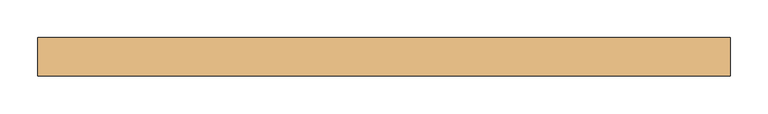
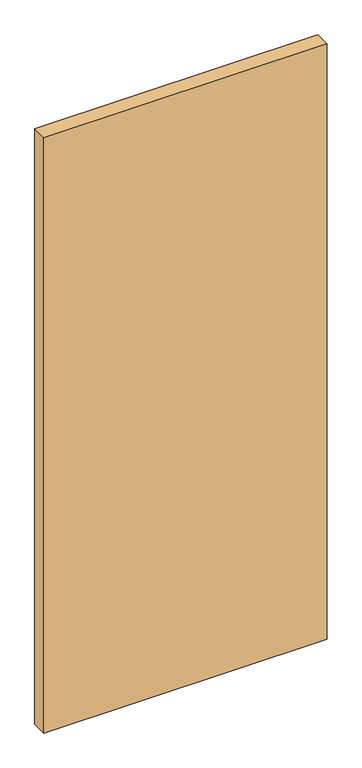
"""IFC4 building model written with IfcOpenShell, lengths in millimetres: door geometry, Planitar - Swap_Flush Panel : Planitar - Swap_Flush Panel."""

from ifc_helpers import new_model, si_unit, origin, origin_with_axes, place, context, project, spatial, polyline, outline, extrude, source, transform, mapped, element, save


def door_528a3d63(model_context):
    return source(origin(), model_context, "Body", "SweptSolid", [
        extrude(outline(polyline([(457.2, 25.4), (457.2, -25.4), (-457.2, -25.4), (-457.2, 25.4), (457.2, 25.4)])), origin_with_axes(), (0.0, 0.0, 1.0), 2032.0),
    ])


if __name__ == "__main__":
    model = new_model("IFC4")
    model_context = context("Model", 3, world=origin())
    ifc_project = project(units=[si_unit("LENGTHUNIT", "METRE", prefix="MILLI")], contexts=[model_context])
    site = spatial("IfcSite", under=ifc_project)
    building = spatial("IfcBuilding", under=site)
    placement = place(None, origin())
    door_shape = door_528a3d63(model_context)
    element("IfcDoor", 1, ObjectType="Planitar - Swap_Flush Panel : Planitar - Swap_Flush Panel", at=placement, inside=building, context=model_context, shape_type="MappedRepresentation", body=[
        mapped(door_shape, transform((0.0, 0.0, 0.0), x_axis=(1.0, 0.0, 0.0), y_axis=(0.0, 1.0, 0.0), z_axis=(0.0, 0.0, 1.0))),
    ])
    save(model, "model.ifc")
